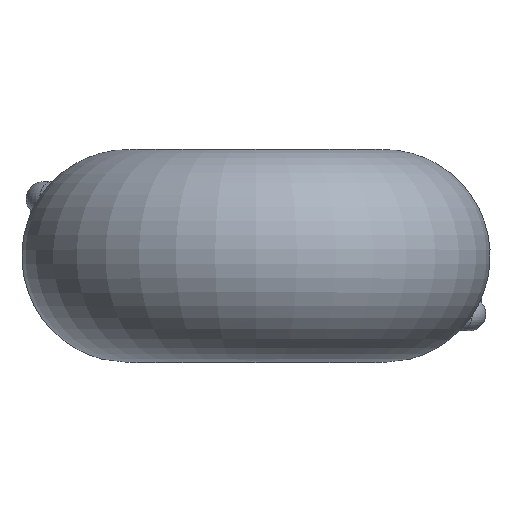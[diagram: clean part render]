
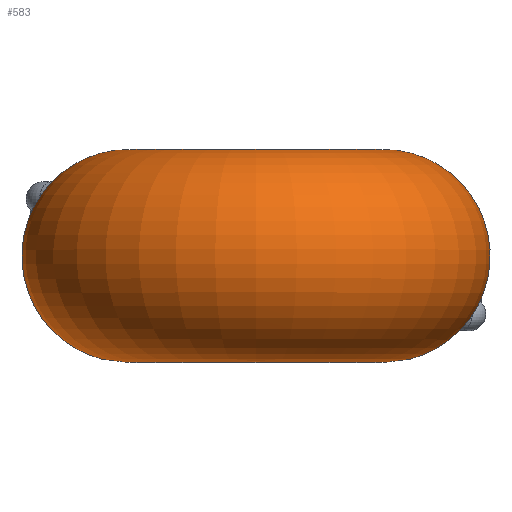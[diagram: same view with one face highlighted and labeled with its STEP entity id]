
A CAD part, top view. The second image highlights one B-rep face of the part: STEP entity #583.
In plain terms, the highlighted toroidal (fillet/blend) face has major radius 3 mm and minor radius 2.5 mm.
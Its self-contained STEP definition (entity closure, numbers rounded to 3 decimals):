
#451=CARTESIAN_POINT('',(3.945,0.468,-3.809));
#452=VERTEX_POINT('',#451);
#484=CARTESIAN_POINT('',(3.945,0.468,-3.809));
#485=CARTESIAN_POINT('',(4.045,0.47,-3.706));
#486=CARTESIAN_POINT('',(4.234,0.409,-3.485));
#487=CARTESIAN_POINT('',(4.405,0.154,-3.188));
#488=CARTESIAN_POINT('',(4.418,-0.191,-2.976));
#489=CARTESIAN_POINT('',(4.28,-0.544,-2.865));
#490=CARTESIAN_POINT('',(4.024,-0.849,-2.855));
#491=CARTESIAN_POINT('',(3.689,-1.074,-2.944));
#492=CARTESIAN_POINT('',(3.316,-1.178,-3.186));
#493=CARTESIAN_POINT('',(3.113,-1.101,-3.503));
#494=CARTESIAN_POINT('',(3.035,-0.973,-3.737));
#495=CARTESIAN_POINT('',(2.998,-0.812,-3.95));
#496=CARTESIAN_POINT('',(3.021,-0.509,-4.207));
#497=CARTESIAN_POINT('',(3.162,-0.143,-4.311));
#498=CARTESIAN_POINT('',(3.392,0.183,-4.253));
#499=CARTESIAN_POINT('',(3.631,0.399,-4.107));
#500=CARTESIAN_POINT('',(3.845,0.466,-3.913));
#501=CARTESIAN_POINT('',(3.945,0.468,-3.809));
#502=B_SPLINE_CURVE_WITH_KNOTS('',3,(#484,#485,#486,#487,#488,#489,#490,#491,#492,#493,#494,#495,#496,#497,#498,#499,#500,#501),.UNSPECIFIED.,.T.,.U.,(4,1,1,1,1,1,1,1,1,1,1,1,1,1,1,4),(0.0,0.02,0.04,0.059,0.079,0.099,0.119,0.138,0.158,0.168,0.178,0.198,0.227,0.237,0.257,0.277),.UNSPECIFIED.);
#503=EDGE_CURVE('',#452,#452,#502,.T.);
#528=CARTESIAN_POINT('',(0.,0.75,0.));
#529=DIRECTION('',(0.,-1.0,0.));
#530=DIRECTION('',(0.0,0.0,1.0));
#531=AXIS2_PLACEMENT_3D('',#528,#529,#530);
#532=TOROIDAL_SURFACE('',#531,3.0,2.5);
#533=CARTESIAN_POINT('',(0.,3.25,3.0));
#534=VERTEX_POINT('',#533);
#535=CARTESIAN_POINT('',(0.,3.25,0.));
#536=DIRECTION('',(0.0,-1.0,0.0));
#537=DIRECTION('',(0.0,0.0,-1.0));
#538=AXIS2_PLACEMENT_3D('',#535,#536,#537);
#539=CIRCLE('',#538,3.0);
#540=EDGE_CURVE('',#534,#534,#539,.T.);
#541=ORIENTED_EDGE('',*,*,#540,.T.);
#542=EDGE_LOOP('',(#541));
#543=FACE_OUTER_BOUND('',#542,.T.);
#544=CARTESIAN_POINT('',(0.,-1.75,3.0));
#545=VERTEX_POINT('',#544);
#546=CARTESIAN_POINT('',(0.,-1.75,0.));
#547=DIRECTION('',(0.0,1.0,0.0));
#548=DIRECTION('',(0.0,0.0,-1.0));
#549=AXIS2_PLACEMENT_3D('',#546,#547,#548);
#550=CIRCLE('',#549,3.0);
#551=EDGE_CURVE('',#545,#545,#550,.T.);
#552=ORIENTED_EDGE('',*,*,#551,.T.);
#553=EDGE_LOOP('',(#552));
#554=FACE_BOUND('',#553,.T.);
#555=CARTESIAN_POINT('',(-3.945,1.032,-3.809));
#556=VERTEX_POINT('',#555);
#557=CARTESIAN_POINT('',(-3.945,1.033,-3.81));
#558=CARTESIAN_POINT('',(-4.145,1.03,-3.603));
#559=CARTESIAN_POINT('',(-4.36,1.192,-3.313));
#560=CARTESIAN_POINT('',(-4.412,1.518,-3.082));
#561=CARTESIAN_POINT('',(-4.396,1.749,-2.957));
#562=CARTESIAN_POINT('',(-4.281,2.044,-2.865));
#563=CARTESIAN_POINT('',(-4.024,2.348,-2.855));
#564=CARTESIAN_POINT('',(-3.689,2.574,-2.944));
#565=CARTESIAN_POINT('',(-3.316,2.678,-3.186));
#566=CARTESIAN_POINT('',(-3.113,2.601,-3.504));
#567=CARTESIAN_POINT('',(-3.035,2.473,-3.737));
#568=CARTESIAN_POINT('',(-2.998,2.312,-3.95));
#569=CARTESIAN_POINT('',(-3.021,2.009,-4.207));
#570=CARTESIAN_POINT('',(-3.162,1.643,-4.311));
#571=CARTESIAN_POINT('',(-3.392,1.318,-4.253));
#572=CARTESIAN_POINT('',(-3.63,1.103,-4.108));
#573=CARTESIAN_POINT('',(-3.844,1.034,-3.913));
#574=CARTESIAN_POINT('',(-3.945,1.033,-3.81));
#575=B_SPLINE_CURVE_WITH_KNOTS('',3,(#557,#558,#559,#560,#561,#562,#563,#564,#565,#566,#567,#568,#569,#570,#571,#572,#573,#574),.UNSPECIFIED.,.T.,.U.,(4,1,1,1,1,1,1,1,1,1,1,1,1,1,1,4),(0.0,0.04,0.049,0.059,0.079,0.099,0.119,0.138,0.158,0.168,0.178,0.198,0.227,0.237,0.257,0.277),.UNSPECIFIED.);
#576=EDGE_CURVE('',#556,#556,#575,.T.);
#577=ORIENTED_EDGE('',*,*,#576,.F.);
#578=EDGE_LOOP('',(#577));
#579=FACE_BOUND('',#578,.T.);
#580=ORIENTED_EDGE('',*,*,#503,.F.);
#581=EDGE_LOOP('',(#580));
#582=FACE_BOUND('',#581,.T.);
#583=ADVANCED_FACE('',(#543,#554,#579,#582),#532,.T.);
